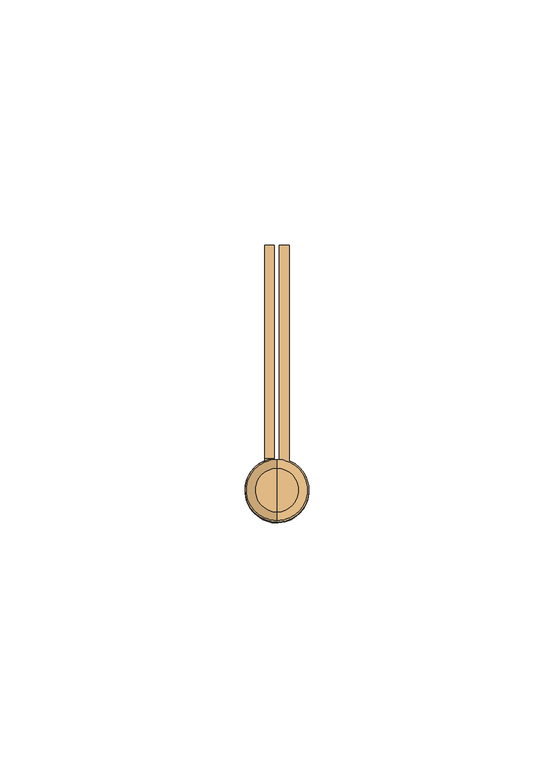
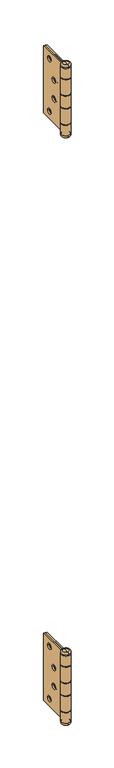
"""IFC4 building model written with IfcOpenShell, lengths in millimetres: door geometry, Puerta contraplacada : Puerta contraplacada 0.65x2.10 m."""

from ifc_helpers import new_model, si_unit, point, frame, origin, place, context, project, spatial, polyline, circle_curve, ellipse_curve, trimmed, source, transform, mapped, element, save
from ifc_brep_helpers import plane_surface, cylinder_surface, revolved_surface, advanced_brep


def door_0d445abd(model_context):
    return source(origin(), model_context, "Body", "AdvancedBrep", [
        advanced_brep(
        [(-289.0, -7.5, 1950.0), (-289.0, -51.5, 1950.0), (-289.0, -51.5, 1934.5), (-289.0, -51.0, 1934.5), (-289.0, -51.0, 1909.0), (-289.0, -51.5, 1909.0), (-289.0, -51.5, 1891.0), (-289.0, -51.0, 1891.0), (-289.0, -51.0, 1865.5), (-289.0, -51.5, 1865.5), (-289.0, -51.5, 1850.0), (-289.0, -7.5, 1850.0), (-289.0, -17.5, 1861.0), (-289.0, -25.5, 1861.0), (-289.0, -28.5, 1886.0), (-289.0, -36.5, 1886.0), (-289.0, -17.5, 1939.0), (-289.0, -25.5, 1939.0), (-289.0, -28.5, 1914.0), (-289.0, -36.5, 1914.0), (-291.0, -7.5, 1850.0), (-291.0, -53.027864, 1850.0), (-291.0, -53.027864, 1865.5), (-291.0, -51.0, 1865.5), (-291.0, -51.0, 1891.0), (-291.0, -53.027864, 1891.0), (-291.0, -53.027864, 1909.0), (-291.0, -51.0, 1909.0), (-291.0, -51.0, 1934.5), (-291.0, -53.027864, 1934.5), (-291.0, -53.027864, 1950.0), (-291.0, -7.5, 1950.0), (-291.0, -25.5, 1861.0), (-291.0, -17.5, 1861.0), (-291.0, -36.5, 1886.0), (-291.0, -28.5, 1886.0), (-291.0, -25.5, 1939.0), (-291.0, -17.5, 1939.0), (-291.0, -36.5, 1914.0), (-291.0, -28.5, 1914.0), (-292.0, -51.0192593, 1850.0), (-292.0, -53.027864, 1850.0), (-292.0, -53.027864, 1950.0), (-292.0, -51.0192593, 1950.0), (-292.0, -51.0192593, 1934.5), (-292.0, -53.027864, 1934.5), (-292.0, -53.027864, 1909.0), (-292.0, -51.0192593, 1909.0), (-292.0, -51.0192593, 1891.0), (-292.0, -53.027864, 1891.0), (-292.0, -53.027864, 1865.5), (-292.0, -51.0192593, 1865.5)],
        [
            (0, 1),
            (1, 2),
            (2, 3),
            (3, 4),
            (4, 5),
            (5, 6),
            (6, 7),
            (7, 8),
            (8, 9),
            (9, 10),
            (10, 11),
            (11, 0),
            (12, 13, circle_curve(frame((-289.0, -21.5, 1861.0), z_axis=(-1.0, 0.0, 0.0), x_axis=(0.0, 1.0, 0.0)), 4.0)),
            (13, 12, circle_curve(frame((-289.0, -21.5, 1861.0), z_axis=(-1.0, 0.0, 0.0), x_axis=(0.0, 1.0, 0.0)), 4.0)),
            (14, 15, circle_curve(frame((-289.0, -32.5, 1886.0), z_axis=(-1.0, 0.0, 0.0), x_axis=(0.0, 1.0, 0.0)), 4.0)),
            (15, 14, circle_curve(frame((-289.0, -32.5, 1886.0), z_axis=(-1.0, 0.0, 0.0), x_axis=(0.0, 1.0, 0.0)), 4.0)),
            (16, 17, circle_curve(frame((-289.0, -21.5, 1939.0), z_axis=(-1.0, 0.0, 0.0), x_axis=(0.0, 1.0, 0.0)), 4.0)),
            (17, 16, circle_curve(frame((-289.0, -21.5, 1939.0), z_axis=(-1.0, 0.0, 0.0), x_axis=(0.0, 1.0, 0.0)), 4.0)),
            (18, 19, circle_curve(frame((-289.0, -32.5, 1914.0), z_axis=(-1.0, 0.0, 0.0), x_axis=(0.0, 1.0, 0.0)), 4.0)),
            (19, 18, circle_curve(frame((-289.0, -32.5, 1914.0), z_axis=(-1.0, 0.0, 0.0), x_axis=(0.0, 1.0, 0.0)), 4.0)),
            (20, 21),
            (21, 22),
            (22, 23),
            (23, 24),
            (24, 25),
            (25, 26),
            (26, 27),
            (27, 28),
            (28, 29),
            (29, 30),
            (30, 31),
            (31, 20),
            (32, 33, circle_curve(frame((-291.0, -21.5, 1861.0), z_axis=(1.0, 0.0, 0.0), x_axis=(0.0, 1.0, 0.0)), 4.0)),
            (33, 32, circle_curve(frame((-291.0, -21.5, 1861.0), z_axis=(1.0, 0.0, 0.0), x_axis=(0.0, 1.0, 0.0)), 4.0)),
            (34, 35, circle_curve(frame((-291.0, -32.5, 1886.0), z_axis=(1.0, 0.0, 0.0), x_axis=(0.0, 1.0, 0.0)), 4.0)),
            (35, 34, circle_curve(frame((-291.0, -32.5, 1886.0), z_axis=(1.0, 0.0, 0.0), x_axis=(0.0, 1.0, 0.0)), 4.0)),
            (36, 37, circle_curve(frame((-291.0, -21.5, 1939.0), z_axis=(1.0, 0.0, 0.0), x_axis=(0.0, 1.0, 0.0)), 4.0)),
            (37, 36, circle_curve(frame((-291.0, -21.5, 1939.0), z_axis=(1.0, 0.0, 0.0), x_axis=(0.0, 1.0, 0.0)), 4.0)),
            (38, 39, circle_curve(frame((-291.0, -32.5, 1914.0), z_axis=(1.0, 0.0, 0.0), x_axis=(0.0, 1.0, 0.0)), 4.0)),
            (39, 38, circle_curve(frame((-291.0, -32.5, 1914.0), z_axis=(1.0, 0.0, 0.0), x_axis=(0.0, 1.0, 0.0)), 4.0)),
            (10, 40, circle_curve(frame((-291.5, -57.5, 1850.0), z_axis=(0.0, 0.0, -1.0), x_axis=(0.0, -1.0, 0.0)), 6.5)),
            (40, 41),
            (41, 21, circle_curve(frame((-291.5, -57.5, 1850.0), z_axis=(0.0, 0.0, 1.0), x_axis=(0.0, -1.0, 0.0)), 4.5)),
            (20, 11),
            (31, 0),
            (30, 42, circle_curve(frame((-291.5, -57.5, 1950.0), z_axis=(0.0, 0.0, -1.0), x_axis=(0.0, -1.0, 0.0)), 4.5)),
            (42, 43),
            (43, 1, circle_curve(frame((-291.5, -57.5, 1950.0), z_axis=(0.0, 0.0, 1.0), x_axis=(0.0, -1.0, 0.0)), 6.5)),
            (27, 4),
            (3, 28),
            (23, 8),
            (7, 24),
            (2, 44, circle_curve(frame((-291.5, -57.5, 1934.5), z_axis=(0.0, 0.0, -1.0), x_axis=(0.0, -1.0, 0.0)), 6.5)),
            (44, 45),
            (45, 29, circle_curve(frame((-291.5, -57.5, 1934.5), z_axis=(0.0, 0.0, 1.0), x_axis=(0.0, -1.0, 0.0)), 4.5)),
            (43, 44),
            (42, 45),
            (26, 46, circle_curve(frame((-291.5, -57.5, 1909.0), z_axis=(0.0, 0.0, -1.0), x_axis=(0.0, -1.0, 0.0)), 4.5)),
            (46, 47),
            (47, 5, circle_curve(frame((-291.5, -57.5, 1909.0), z_axis=(0.0, 0.0, 1.0), x_axis=(0.0, -1.0, 0.0)), 6.5)),
            (6, 48, circle_curve(frame((-291.5, -57.5, 1891.0), z_axis=(0.0, 0.0, -1.0), x_axis=(0.0, -1.0, 0.0)), 6.5)),
            (48, 49),
            (49, 25, circle_curve(frame((-291.5, -57.5, 1891.0), z_axis=(0.0, 0.0, 1.0), x_axis=(0.0, -1.0, 0.0)), 4.5)),
            (47, 48),
            (46, 49),
            (22, 50, circle_curve(frame((-291.5, -57.5, 1865.5), z_axis=(0.0, 0.0, -1.0), x_axis=(0.0, -1.0, 0.0)), 4.5)),
            (50, 51),
            (51, 9, circle_curve(frame((-291.5, -57.5, 1865.5), z_axis=(0.0, 0.0, 1.0), x_axis=(0.0, -1.0, 0.0)), 6.5)),
            (51, 40),
            (50, 41),
            (33, 12),
            (13, 32),
            (35, 14),
            (15, 34),
            (37, 16),
            (17, 36),
            (39, 18),
            (19, 38),
        ],
        [
            plane_surface(frame((-289.0, -51.0, 1850.0), z_axis=(1.0, 0.0, 0.0), x_axis=(0.0, 0.0, 1.0))),
            plane_surface(frame((-291.0, -51.0, 1850.0), z_axis=(-1.0, 0.0, 0.0), x_axis=(0.0, 0.0, -1.0))),
            plane_surface(frame((-289.0, -7.5, 1850.0), z_axis=(0.0, 0.0, -1.0), x_axis=(-1.0, 0.0, 0.0))),
            plane_surface(frame((-289.0, -7.5, 1950.0), z_axis=(0.0, 1.0, 0.0), x_axis=(-1.0, 0.0, 0.0))),
            plane_surface(frame((-289.0, -51.0, 1950.0), z_axis=(0.0, 0.0, 1.0), x_axis=(-1.0, 0.0, 0.0))),
            plane_surface(frame((-289.0, -51.0, 1850.0), z_axis=(0.0, -1.0, 0.0), x_axis=(-1.0, 0.0, 0.0))),
            plane_surface(frame((-291.0, -51.0, 1934.5), z_axis=(0.0, 0.0, -1.0), x_axis=(0.0, -1.0, 0.0))),
            cylinder_surface(frame((-291.5, -57.5, 1934.5), z_axis=(0.0, 0.0, 1.0), x_axis=(0.0, -1.0, 0.0)), 6.5),
            plane_surface(frame((-292.0, -51.0192593, 1950.0), z_axis=(1.0, 0.0, 0.0), x_axis=(0.0, 0.0, -1.0))),
            revolved_surface(polyline([(-291.5, -62.0, 1934.5), (-291.5, -62.0, 1950.0)]), (-291.5, -57.5, 1934.5), (0.0, 0.0, -1.0)),
            plane_surface(frame((-291.0, -51.0, 1909.0), z_axis=(0.0, 0.0, 1.0), x_axis=(0.0, 1.0, 0.0))),
            plane_surface(frame((-291.0, -51.0, 1891.0), z_axis=(0.0, 0.0, -1.0), x_axis=(0.0, -1.0, 0.0))),
            cylinder_surface(frame((-291.5, -57.5, 1891.0), z_axis=(0.0, 0.0, 1.0), x_axis=(0.0, -1.0, 0.0)), 6.5),
            plane_surface(frame((-292.0, -51.0192593, 1909.0), z_axis=(1.0, 0.0, 0.0), x_axis=(0.0, 0.0, -1.0))),
            revolved_surface(polyline([(-291.5, -62.0, 1891.0), (-291.5, -62.0, 1909.0)]), (-291.5, -57.5, 1891.0), (0.0, 0.0, -1.0)),
            plane_surface(frame((-291.0, -51.0, 1865.5), z_axis=(0.0, 0.0, 1.0), x_axis=(0.0, 1.0, 0.0))),
            cylinder_surface(frame((-291.5, -57.5, 1850.0), z_axis=(0.0, 0.0, 1.0), x_axis=(0.0, -1.0, 0.0)), 6.5),
            plane_surface(frame((-292.0, -51.0192593, 1865.5), z_axis=(1.0, 0.0, 0.0), x_axis=(0.0, 0.0, -1.0))),
            revolved_surface(polyline([(-291.5, -62.0, 1850.0), (-291.5, -62.0, 1865.5)]), (-291.5, -57.5, 1850.0), (0.0, 0.0, -1.0)),
            revolved_surface(polyline([(-289.0, -17.5, 1861.0), (-291.0, -17.5, 1861.0)]), (-294.0, -21.5, 1861.0), (1.0, 0.0, 0.0)),
            revolved_surface(polyline([(-289.0, -28.5, 1886.0), (-291.0, -28.5, 1886.0)]), (-292.0, -32.5, 1886.0), (1.0, 0.0, 0.0)),
            revolved_surface(polyline([(-289.0, -17.5, 1939.0), (-291.0, -17.5, 1939.0)]), (-292.0, -21.5, 1939.0), (1.0, 0.0, 0.0)),
            revolved_surface(polyline([(-289.0, -28.5, 1914.0), (-291.0, -28.5, 1914.0)]), (-292.0, -32.5, 1914.0), (1.0, 0.0, 0.0)),
        ],
        [
            (0, [[1, 2, 3, 4, 5, 6, 7, 8, 9, 10, 11, 12], [13, 14], [15, 16], [17, 18], [19, 20]]),
            (1, [[21, 22, 23, 24, 25, 26, 27, 28, 29, 30, 31, 32], [33, 34], [35, 36], [37, 38], [39, 40]]),
            (2, [[-11, 41, 42, 43, -21, 44]]),
            (3, [[-44, -32, 45, -12]]),
            (4, [[-31, 46, 47, 48, -1, -45]]),
            (5, [[-28, 49, -4, 50]]),
            (5, [[-24, 51, -8, 52]]),
            (6, [[-29, -50, -3, 53, 54, 55]]),
            (7, [[56, -53, -2, -48]]),
            (8, [[57, -54, -56, -47]]),
            (9, [[-30, -55, -57, -46]]),
            (10, [[-5, -49, -27, 58, 59, 60]]),
            (11, [[-25, -52, -7, 61, 62, 63]]),
            (12, [[64, -61, -6, -60]]),
            (13, [[65, -62, -64, -59]]),
            (14, [[-26, -63, -65, -58]]),
            (15, [[-9, -51, -23, 66, 67, 68]]),
            (16, [[69, -41, -10, -68]]),
            (17, [[70, -42, -69, -67]]),
            (18, [[-22, -43, -70, -66]]),
            (19, [[-34, 71, -14, 72]]),
            (19, [[-13, -71, -33, -72]]),
            (20, [[-36, 73, -16, 74]]),
            (20, [[-15, -73, -35, -74]]),
            (21, [[-38, 75, -18, 76]]),
            (21, [[-17, -75, -37, -76]]),
            (22, [[-40, 77, -20, 78]]),
            (22, [[-19, -77, -39, -78]]),
        ],
    ),
        advanced_brep(
        [(-291.5, -53.0, 1954.0), (-291.5, -53.0, 1950.5), (-291.5, -61.9442719, 1950.5), (-291.5, -61.9442719, 1954.0), (-291.5, -57.472136, 1954.0), (-291.5, -53.0, 1846.0), (-291.5, -57.472136, 1846.0), (-291.5, -61.9442719, 1846.0), (-291.5, -53.0, 1849.5), (-291.5, -61.9442719, 1849.5)],
        [
            (0, 1, circle_curve(frame((-291.5, -53.0, 1952.25), z_axis=(-1.0, 0.0, 0.0), x_axis=(0.0, -1.0, 0.0)), 1.75)),
            (1, 2, circle_curve(frame((-291.5, -57.472136, 1950.5), z_axis=(0.0, 0.0, 1.0), x_axis=(0.0, -1.0, 0.0)), 4.472136)),
            (2, 3, circle_curve(frame((-291.5, -61.9442719, 1952.25), z_axis=(-1.0, 0.0, 0.0), x_axis=(0.0, 1.0, 0.0)), 1.75)),
            (3, 0, circle_curve(frame((-291.5, -57.472136, 1954.0), z_axis=(0.0, 0.0, -1.0), x_axis=(0.0, -1.0, 0.0)), 4.472136)),
            (2, 1, circle_curve(frame((-291.5, -57.472136, 1950.5), z_axis=(0.0, 0.0, 1.0), x_axis=(0.0, -1.0, 0.0)), 4.472136)),
            (0, 3, circle_curve(frame((-291.5, -57.472136, 1954.0), z_axis=(0.0, 0.0, -1.0), x_axis=(0.0, -1.0, 0.0)), 4.472136)),
            (4, 0),
            (3, 4),
            (5, 6),
            (6, 7),
            (7, 5, circle_curve(frame((-291.5, -57.472136, 1846.0), z_axis=(0.0, 0.0, -1.0), x_axis=(0.0, -1.0, 0.0)), 4.472136)),
            (5, 7, circle_curve(frame((-291.5, -57.472136, 1846.0), z_axis=(0.0, 0.0, -1.0), x_axis=(0.0, -1.0, 0.0)), 4.472136)),
            (8, 5, circle_curve(frame((-291.5, -53.0, 1847.75), z_axis=(-1.0, 0.0, 0.0), x_axis=(0.0, -1.0, 0.0)), 1.75)),
            (7, 9, circle_curve(frame((-291.5, -61.9442719, 1847.75), z_axis=(-1.0, 0.0, 0.0), x_axis=(0.0, 1.0, 0.0)), 1.75)),
            (9, 8, circle_curve(frame((-291.5, -57.472136, 1849.5), z_axis=(0.0, 0.0, -1.0), x_axis=(0.0, -1.0, 0.0)), 4.472136)),
            (8, 9, circle_curve(frame((-291.5, -57.472136, 1849.5), z_axis=(0.0, 0.0, -1.0), x_axis=(0.0, -1.0, 0.0)), 4.472136)),
            (1, 8),
            (9, 2),
        ],
        [
            revolved_surface(trimmed(ellipse_curve(frame((-291.5, -61.9442719, 1952.25), z_axis=(-1.0, 0.0, 0.0), x_axis=(0.0, 1.0, 0.0)), 1.75, 1.75), [point((-291.5, -61.9442719, 1950.5))], [point((-291.5, -61.9442719, 1954.0))], True, "CARTESIAN"), (-291.5, -57.472136, 1954.0), (0.0, 0.0, 1.0)),
            plane_surface(frame((-291.5, -57.472136, 1954.0), z_axis=(0.0, 0.0, 1.0), x_axis=(0.0, -1.0, 0.0))),
            plane_surface(frame((-291.5, -57.472136, 1846.0), z_axis=(0.0, 0.0, -1.0), x_axis=(0.0, -1.0, 0.0))),
            revolved_surface(trimmed(ellipse_curve(frame((-291.5, -61.9442719, 1847.75), z_axis=(-1.0, 0.0, 0.0), x_axis=(0.0, 1.0, 0.0)), 1.75, 1.75), [point((-291.5, -61.9442719, 1846.0))], [point((-291.5, -61.9442719, 1849.5))], True, "CARTESIAN"), (-291.5, -57.472136, 1954.0), (0.0, 0.0, 1.0)),
            cylinder_surface(frame((-291.5, -57.472136, 1954.0), z_axis=(0.0, 0.0, 1.0), x_axis=(0.0, -1.0, 0.0)), 4.472136),
        ],
        [
            (0, [[1, 2, 3, 4]]),
            (0, [[-3, 5, -1, 6]]),
            (1, [[7, -4, 8]]),
            (1, [[-8, -6, -7]]),
            (2, [[9, 10, 11]]),
            (2, [[-10, -9, 12]]),
            (3, [[13, -11, 14, 15]]),
            (3, [[-14, -12, -13, 16]]),
            (4, [[17, -15, 18, -2]]),
            (4, [[-18, -16, -17, -5]]),
        ],
    ),
        advanced_brep(
        [(-292.0, -51.0, 1950.0), (-292.0, -51.0, 1933.5), (-292.0, -53.027864, 1933.5), (-292.0, -53.027864, 1910.0), (-292.0, -51.0, 1910.0), (-292.0, -51.0, 1890.0), (-292.0, -53.027864, 1890.0), (-292.0, -53.027864, 1866.5), (-292.0, -51.0, 1866.5), (-292.0, -51.0, 1850.0), (-292.0, -7.5, 1850.0), (-292.0, -7.5, 1950.0), (-292.0, -17.5, 1861.0), (-292.0, -25.5, 1861.0), (-292.0, -28.5, 1886.0), (-292.0, -36.5, 1886.0), (-292.0, -17.5, 1939.0), (-292.0, -25.5, 1939.0), (-292.0, -28.5, 1914.0), (-292.0, -36.5, 1914.0), (-294.0, -51.0, 1850.0), (-294.0, -51.0, 1866.5), (-294.0, -51.5, 1866.5), (-294.0, -51.5, 1890.0), (-294.0, -51.0, 1890.0), (-294.0, -51.0, 1910.0), (-294.0, -51.5, 1910.0), (-294.0, -51.5, 1933.5), (-294.0, -51.0, 1933.5), (-294.0, -51.0, 1950.0), (-294.0, -7.5, 1950.0), (-294.0, -7.5, 1850.0), (-294.0, -25.5, 1861.0), (-294.0, -17.5, 1861.0), (-294.0, -36.5, 1886.0), (-294.0, -28.5, 1886.0), (-294.0, -25.5, 1939.0), (-294.0, -17.5, 1939.0), (-294.0, -36.5, 1914.0), (-294.0, -28.5, 1914.0), (-291.0, -51.0192593, 1933.5), (-291.0, -53.027864, 1933.5), (-291.0, -53.027864, 1910.0), (-291.0, -51.0192593, 1910.0), (-291.0, -51.0192593, 1890.0), (-291.0, -53.027864, 1890.0), (-291.0, -53.027864, 1866.5), (-291.0, -51.0192593, 1866.5)],
        [
            (0, 1),
            (1, 2),
            (2, 3),
            (3, 4),
            (4, 5),
            (5, 6),
            (6, 7),
            (7, 8),
            (8, 9),
            (9, 10),
            (10, 11),
            (11, 0),
            (12, 13, circle_curve(frame((-292.0, -21.5, 1861.0), z_axis=(-1.0, 0.0, 0.0), x_axis=(0.0, 1.0, 0.0)), 4.0)),
            (13, 12, circle_curve(frame((-292.0, -21.5, 1861.0), z_axis=(-1.0, 0.0, 0.0), x_axis=(0.0, 1.0, 0.0)), 4.0)),
            (14, 15, circle_curve(frame((-292.0, -32.5, 1886.0), z_axis=(-1.0, 0.0, 0.0), x_axis=(0.0, 1.0, 0.0)), 4.0)),
            (15, 14, circle_curve(frame((-292.0, -32.5, 1886.0), z_axis=(-1.0, 0.0, 0.0), x_axis=(0.0, 1.0, 0.0)), 4.0)),
            (16, 17, circle_curve(frame((-292.0, -21.5, 1939.0), z_axis=(-1.0, 0.0, 0.0), x_axis=(0.0, 1.0, 0.0)), 4.0)),
            (17, 16, circle_curve(frame((-292.0, -21.5, 1939.0), z_axis=(-1.0, 0.0, 0.0), x_axis=(0.0, 1.0, 0.0)), 4.0)),
            (18, 19, circle_curve(frame((-292.0, -32.5, 1914.0), z_axis=(-1.0, 0.0, 0.0), x_axis=(0.0, 1.0, 0.0)), 4.0)),
            (19, 18, circle_curve(frame((-292.0, -32.5, 1914.0), z_axis=(-1.0, 0.0, 0.0), x_axis=(0.0, 1.0, 0.0)), 4.0)),
            (20, 21),
            (21, 22),
            (22, 23),
            (23, 24),
            (24, 25),
            (25, 26),
            (26, 27),
            (27, 28),
            (28, 29),
            (29, 30),
            (30, 31),
            (31, 20),
            (32, 33, circle_curve(frame((-294.0, -21.5, 1861.0), z_axis=(1.0, 0.0, 0.0), x_axis=(0.0, 1.0, 0.0)), 4.0)),
            (33, 32, circle_curve(frame((-294.0, -21.5, 1861.0), z_axis=(1.0, 0.0, 0.0), x_axis=(0.0, 1.0, 0.0)), 4.0)),
            (34, 35, circle_curve(frame((-294.0, -32.5, 1886.0), z_axis=(1.0, 0.0, 0.0), x_axis=(0.0, 1.0, 0.0)), 4.0)),
            (35, 34, circle_curve(frame((-294.0, -32.5, 1886.0), z_axis=(1.0, 0.0, 0.0), x_axis=(0.0, 1.0, 0.0)), 4.0)),
            (36, 37, circle_curve(frame((-294.0, -21.5, 1939.0), z_axis=(1.0, 0.0, 0.0), x_axis=(0.0, 1.0, 0.0)), 4.0)),
            (37, 36, circle_curve(frame((-294.0, -21.5, 1939.0), z_axis=(1.0, 0.0, 0.0), x_axis=(0.0, 1.0, 0.0)), 4.0)),
            (38, 39, circle_curve(frame((-294.0, -32.5, 1914.0), z_axis=(1.0, 0.0, 0.0), x_axis=(0.0, 1.0, 0.0)), 4.0)),
            (39, 38, circle_curve(frame((-294.0, -32.5, 1914.0), z_axis=(1.0, 0.0, 0.0), x_axis=(0.0, 1.0, 0.0)), 4.0)),
            (9, 20),
            (31, 10),
            (30, 11),
            (29, 0),
            (8, 21),
            (28, 1),
            (24, 5),
            (4, 25),
            (27, 40, circle_curve(frame((-291.5, -57.5, 1933.5), z_axis=(0.0, 0.0, 1.0), x_axis=(0.0, -1.0, 0.0)), 6.5)),
            (40, 41),
            (41, 2, circle_curve(frame((-291.5, -57.5, 1933.5), z_axis=(0.0, 0.0, -1.0), x_axis=(0.0, -1.0, 0.0)), 4.5)),
            (3, 42, circle_curve(frame((-291.5, -57.5, 1910.0), z_axis=(0.0, 0.0, 1.0), x_axis=(0.0, -1.0, 0.0)), 4.5)),
            (42, 43),
            (43, 26, circle_curve(frame((-291.5, -57.5, 1910.0), z_axis=(0.0, 0.0, -1.0), x_axis=(0.0, -1.0, 0.0)), 6.5)),
            (43, 40),
            (42, 41),
            (23, 44, circle_curve(frame((-291.5, -57.5, 1890.0), z_axis=(0.0, 0.0, 1.0), x_axis=(0.0, -1.0, 0.0)), 6.5)),
            (44, 45),
            (45, 6, circle_curve(frame((-291.5, -57.5, 1890.0), z_axis=(0.0, 0.0, -1.0), x_axis=(0.0, -1.0, 0.0)), 4.5)),
            (7, 46, circle_curve(frame((-291.5, -57.5, 1866.5), z_axis=(0.0, 0.0, 1.0), x_axis=(0.0, -1.0, 0.0)), 4.5)),
            (46, 47),
            (47, 22, circle_curve(frame((-291.5, -57.5, 1866.5), z_axis=(0.0, 0.0, -1.0), x_axis=(0.0, -1.0, 0.0)), 6.5)),
            (47, 44),
            (46, 45),
            (33, 12),
            (13, 32),
            (35, 14),
            (15, 34),
            (37, 16),
            (17, 36),
            (39, 18),
            (19, 38),
        ],
        [
            plane_surface(frame((-292.0, -51.0, 1850.0), z_axis=(1.0, 0.0, 0.0), x_axis=(0.0, 0.0, 1.0))),
            plane_surface(frame((-294.0, -51.0, 1850.0), z_axis=(-1.0, 0.0, 0.0), x_axis=(0.0, 0.0, -1.0))),
            plane_surface(frame((-292.0, -7.5, 1850.0), z_axis=(0.0, 0.0, -1.0), x_axis=(-1.0, 0.0, 0.0))),
            plane_surface(frame((-292.0, -7.5, 1950.0), z_axis=(0.0, 1.0, 0.0), x_axis=(-1.0, 0.0, 0.0))),
            plane_surface(frame((-292.0, -51.0, 1950.0), z_axis=(0.0, 0.0, 1.0), x_axis=(-1.0, 0.0, 0.0))),
            plane_surface(frame((-292.0, -51.0, 1850.0), z_axis=(0.0, -1.0, 0.0), x_axis=(-1.0, 0.0, 0.0))),
            plane_surface(frame((-291.5, -62.0, 1933.5), z_axis=(0.0, 0.0, 1.0), x_axis=(1.0, 0.0, 0.0))),
            plane_surface(frame((-291.5, -62.0, 1910.0), z_axis=(0.0, 0.0, -1.0), x_axis=(-1.0, 0.0, 0.0))),
            cylinder_surface(frame((-291.5, -57.5, 1910.0), z_axis=(0.0, 0.0, 1.0), x_axis=(0.0, -1.0, 0.0)), 6.5),
            plane_surface(frame((-291.0, -53.027864, 1933.5), z_axis=(-1.0, 0.0, 0.0), x_axis=(0.0, 0.0, -1.0))),
            revolved_surface(polyline([(-291.5, -62.0, 1910.0), (-291.5, -62.0, 1933.5)]), (-291.5, -57.5, 1910.0), (0.0, 0.0, -1.0)),
            plane_surface(frame((-291.5, -62.0, 1890.0), z_axis=(0.0, 0.0, 1.0), x_axis=(1.0, 0.0, 0.0))),
            plane_surface(frame((-291.5, -62.0, 1866.5), z_axis=(0.0, 0.0, -1.0), x_axis=(-1.0, 0.0, 0.0))),
            cylinder_surface(frame((-291.5, -57.5, 1866.5), z_axis=(0.0, 0.0, 1.0), x_axis=(0.0, -1.0, 0.0)), 6.5),
            plane_surface(frame((-291.0, -53.027864, 1890.0), z_axis=(-1.0, 0.0, 0.0), x_axis=(0.0, 0.0, -1.0))),
            revolved_surface(polyline([(-291.5, -62.0, 1866.5), (-291.5, -62.0, 1890.0)]), (-291.5, -57.5, 1866.5), (0.0, 0.0, -1.0)),
            revolved_surface(polyline([(-292.0, -17.5, 1861.0), (-294.0, -17.5, 1861.0)]), (-294.0, -21.5, 1861.0), (1.0, 0.0, 0.0)),
            revolved_surface(polyline([(-292.0, -28.5, 1886.0), (-294.0, -28.5, 1886.0)]), (-292.0, -32.5, 1886.0), (1.0, 0.0, 0.0)),
            revolved_surface(polyline([(-292.0, -17.5, 1939.0), (-294.0, -17.5, 1939.0)]), (-292.0, -21.5, 1939.0), (1.0, 0.0, 0.0)),
            revolved_surface(polyline([(-292.0, -28.5, 1914.0), (-294.0, -28.5, 1914.0)]), (-292.0, -32.5, 1914.0), (1.0, 0.0, 0.0)),
        ],
        [
            (0, [[1, 2, 3, 4, 5, 6, 7, 8, 9, 10, 11, 12], [13, 14], [15, 16], [17, 18], [19, 20]]),
            (1, [[21, 22, 23, 24, 25, 26, 27, 28, 29, 30, 31, 32], [33, 34], [35, 36], [37, 38], [39, 40]]),
            (2, [[41, -32, 42, -10]]),
            (3, [[-42, -31, 43, -11]]),
            (4, [[-43, -30, 44, -12]]),
            (5, [[-9, 45, -21, -41]]),
            (5, [[-29, 46, -1, -44]]),
            (5, [[-25, 47, -5, 48]]),
            (6, [[-2, -46, -28, 49, 50, 51]]),
            (7, [[-26, -48, -4, 52, 53, 54]]),
            (8, [[-27, -54, 55, -49]]),
            (9, [[-55, -53, 56, -50]]),
            (10, [[-56, -52, -3, -51]]),
            (11, [[-6, -47, -24, 57, 58, 59]]),
            (12, [[-22, -45, -8, 60, 61, 62]]),
            (13, [[-23, -62, 63, -57]]),
            (14, [[-63, -61, 64, -58]]),
            (15, [[-64, -60, -7, -59]]),
            (16, [[-34, 65, -14, 66]]),
            (16, [[-13, -65, -33, -66]]),
            (17, [[-36, 67, -16, 68]]),
            (17, [[-15, -67, -35, -68]]),
            (18, [[-38, 69, -18, 70]]),
            (18, [[-17, -69, -37, -70]]),
            (19, [[-40, 71, -20, 72]]),
            (19, [[-19, -71, -39, -72]]),
        ],
    ),
        advanced_brep(
        [(-289.0, -7.5, 1075.0174632), (-289.0, -51.5, 1075.0174632), (-289.0, -51.5, 1059.5174632), (-289.0, -51.0, 1059.5174632), (-289.0, -51.0, 1034.0174632), (-289.0, -51.5, 1034.0174632), (-289.0, -51.5, 1016.0174632), (-289.0, -51.0, 1016.0174632), (-289.0, -51.0, 990.5174632), (-289.0, -51.5, 990.5174632), (-289.0, -51.5, 975.0174632), (-289.0, -7.5, 975.0174632), (-289.0, -17.5, 986.0174632), (-289.0, -25.5, 986.0174632), (-289.0, -28.5, 1011.0174632), (-289.0, -36.5, 1011.0174632), (-289.0, -17.5, 1064.0174632), (-289.0, -25.5, 1064.0174632), (-289.0, -28.5, 1039.0174632), (-289.0, -36.5, 1039.0174632), (-291.0, -7.5, 975.0174632), (-291.0, -53.027864, 975.0174632), (-291.0, -53.027864, 990.5174632), (-291.0, -51.0, 990.5174632), (-291.0, -51.0, 1016.0174632), (-291.0, -53.027864, 1016.0174632), (-291.0, -53.027864, 1034.0174632), (-291.0, -51.0, 1034.0174632), (-291.0, -51.0, 1059.5174632), (-291.0, -53.027864, 1059.5174632), (-291.0, -53.027864, 1075.0174632), (-291.0, -7.5, 1075.0174632), (-291.0, -25.5, 986.0174632), (-291.0, -17.5, 986.0174632), (-291.0, -36.5, 1011.0174632), (-291.0, -28.5, 1011.0174632), (-291.0, -25.5, 1064.0174632), (-291.0, -17.5, 1064.0174632), (-291.0, -36.5, 1039.0174632), (-291.0, -28.5, 1039.0174632), (-292.0, -51.0192593, 975.0174632), (-292.0, -53.027864, 975.0174632), (-292.0, -53.027864, 1075.0174632), (-292.0, -51.0192593, 1075.0174632), (-292.0, -51.0192593, 1059.5174632), (-292.0, -53.027864, 1059.5174632), (-292.0, -53.027864, 1034.0174632), (-292.0, -51.0192593, 1034.0174632), (-292.0, -51.0192593, 1016.0174632), (-292.0, -53.027864, 1016.0174632), (-292.0, -53.027864, 990.5174632), (-292.0, -51.0192593, 990.5174632)],
        [
            (0, 1),
            (1, 2),
            (2, 3),
            (3, 4),
            (4, 5),
            (5, 6),
            (6, 7),
            (7, 8),
            (8, 9),
            (9, 10),
            (10, 11),
            (11, 0),
            (12, 13, circle_curve(frame((-289.0, -21.5, 986.0174632), z_axis=(-1.0, 0.0, 0.0), x_axis=(0.0, 1.0, 0.0)), 4.0)),
            (13, 12, circle_curve(frame((-289.0, -21.5, 986.0174632), z_axis=(-1.0, 0.0, 0.0), x_axis=(0.0, 1.0, 0.0)), 4.0)),
            (14, 15, circle_curve(frame((-289.0, -32.5, 1011.0174632), z_axis=(-1.0, 0.0, 0.0), x_axis=(0.0, 1.0, 0.0)), 4.0)),
            (15, 14, circle_curve(frame((-289.0, -32.5, 1011.0174632), z_axis=(-1.0, 0.0, 0.0), x_axis=(0.0, 1.0, 0.0)), 4.0)),
            (16, 17, circle_curve(frame((-289.0, -21.5, 1064.0174632), z_axis=(-1.0, 0.0, 0.0), x_axis=(0.0, 1.0, 0.0)), 4.0)),
            (17, 16, circle_curve(frame((-289.0, -21.5, 1064.0174632), z_axis=(-1.0, 0.0, 0.0), x_axis=(0.0, 1.0, 0.0)), 4.0)),
            (18, 19, circle_curve(frame((-289.0, -32.5, 1039.0174632), z_axis=(-1.0, 0.0, 0.0), x_axis=(0.0, 1.0, 0.0)), 4.0)),
            (19, 18, circle_curve(frame((-289.0, -32.5, 1039.0174632), z_axis=(-1.0, 0.0, 0.0), x_axis=(0.0, 1.0, 0.0)), 4.0)),
            (20, 21),
            (21, 22),
            (22, 23),
            (23, 24),
            (24, 25),
            (25, 26),
            (26, 27),
            (27, 28),
            (28, 29),
            (29, 30),
            (30, 31),
            (31, 20),
            (32, 33, circle_curve(frame((-291.0, -21.5, 986.0174632), z_axis=(1.0, 0.0, 0.0), x_axis=(0.0, 1.0, 0.0)), 4.0)),
            (33, 32, circle_curve(frame((-291.0, -21.5, 986.0174632), z_axis=(1.0, 0.0, 0.0), x_axis=(0.0, 1.0, 0.0)), 4.0)),
            (34, 35, circle_curve(frame((-291.0, -32.5, 1011.0174632), z_axis=(1.0, 0.0, 0.0), x_axis=(0.0, 1.0, 0.0)), 4.0)),
            (35, 34, circle_curve(frame((-291.0, -32.5, 1011.0174632), z_axis=(1.0, 0.0, 0.0), x_axis=(0.0, 1.0, 0.0)), 4.0)),
            (36, 37, circle_curve(frame((-291.0, -21.5, 1064.0174632), z_axis=(1.0, 0.0, 0.0), x_axis=(0.0, 1.0, 0.0)), 4.0)),
            (37, 36, circle_curve(frame((-291.0, -21.5, 1064.0174632), z_axis=(1.0, 0.0, 0.0), x_axis=(0.0, 1.0, 0.0)), 4.0)),
            (38, 39, circle_curve(frame((-291.0, -32.5, 1039.0174632), z_axis=(1.0, 0.0, 0.0), x_axis=(0.0, 1.0, 0.0)), 4.0)),
            (39, 38, circle_curve(frame((-291.0, -32.5, 1039.0174632), z_axis=(1.0, 0.0, 0.0), x_axis=(0.0, 1.0, 0.0)), 4.0)),
            (10, 40, circle_curve(frame((-291.5, -57.5, 975.0174632), z_axis=(0.0, 0.0, -1.0), x_axis=(0.0, -1.0, 0.0)), 6.5)),
            (40, 41),
            (41, 21, circle_curve(frame((-291.5, -57.5, 975.0174632), z_axis=(0.0, 0.0, 1.0), x_axis=(0.0, -1.0, 0.0)), 4.5)),
            (20, 11),
            (31, 0),
            (30, 42, circle_curve(frame((-291.5, -57.5, 1075.0174632), z_axis=(0.0, 0.0, -1.0), x_axis=(0.0, -1.0, 0.0)), 4.5)),
            (42, 43),
            (43, 1, circle_curve(frame((-291.5, -57.5, 1075.0174632), z_axis=(0.0, 0.0, 1.0), x_axis=(0.0, -1.0, 0.0)), 6.5)),
            (27, 4),
            (3, 28),
            (23, 8),
            (7, 24),
            (2, 44, circle_curve(frame((-291.5, -57.5, 1059.5174632), z_axis=(0.0, 0.0, -1.0), x_axis=(0.0, -1.0, 0.0)), 6.5)),
            (44, 45),
            (45, 29, circle_curve(frame((-291.5, -57.5, 1059.5174632), z_axis=(0.0, 0.0, 1.0), x_axis=(0.0, -1.0, 0.0)), 4.5)),
            (43, 44),
            (42, 45),
            (26, 46, circle_curve(frame((-291.5, -57.5, 1034.0174632), z_axis=(0.0, 0.0, -1.0), x_axis=(0.0, -1.0, 0.0)), 4.5)),
            (46, 47),
            (47, 5, circle_curve(frame((-291.5, -57.5, 1034.0174632), z_axis=(0.0, 0.0, 1.0), x_axis=(0.0, -1.0, 0.0)), 6.5)),
            (6, 48, circle_curve(frame((-291.5, -57.5, 1016.0174632), z_axis=(0.0, 0.0, -1.0), x_axis=(0.0, -1.0, 0.0)), 6.5)),
            (48, 49),
            (49, 25, circle_curve(frame((-291.5, -57.5, 1016.0174632), z_axis=(0.0, 0.0, 1.0), x_axis=(0.0, -1.0, 0.0)), 4.5)),
            (47, 48),
            (46, 49),
            (22, 50, circle_curve(frame((-291.5, -57.5, 990.5174632), z_axis=(0.0, 0.0, -1.0), x_axis=(0.0, -1.0, 0.0)), 4.5)),
            (50, 51),
            (51, 9, circle_curve(frame((-291.5, -57.5, 990.5174632), z_axis=(0.0, 0.0, 1.0), x_axis=(0.0, -1.0, 0.0)), 6.5)),
            (51, 40),
            (50, 41),
            (33, 12),
            (13, 32),
            (35, 14),
            (15, 34),
            (37, 16),
            (17, 36),
            (39, 18),
            (19, 38),
        ],
        [
            plane_surface(frame((-289.0, -51.0, 975.0174632), z_axis=(1.0, 0.0, 0.0), x_axis=(0.0, 0.0, 1.0))),
            plane_surface(frame((-291.0, -51.0, 975.0174632), z_axis=(-1.0, 0.0, 0.0), x_axis=(0.0, 0.0, -1.0))),
            plane_surface(frame((-289.0, -7.5, 975.0174632), z_axis=(0.0, 0.0, -1.0), x_axis=(-1.0, 0.0, 0.0))),
            plane_surface(frame((-289.0, -7.5, 1075.0174632), z_axis=(0.0, 1.0, 0.0), x_axis=(-1.0, 0.0, 0.0))),
            plane_surface(frame((-289.0, -51.0, 1075.0174632), z_axis=(0.0, 0.0, 1.0), x_axis=(-1.0, 0.0, 0.0))),
            plane_surface(frame((-289.0, -51.0, 975.0174632), z_axis=(0.0, -1.0, 0.0), x_axis=(-1.0, 0.0, 0.0))),
            plane_surface(frame((-291.0, -51.0, 1059.5174632), z_axis=(0.0, 0.0, -1.0), x_axis=(0.0, -1.0, 0.0))),
            cylinder_surface(frame((-291.5, -57.5, 1059.5174632), z_axis=(0.0, 0.0, 1.0), x_axis=(0.0, -1.0, 0.0)), 6.5),
            plane_surface(frame((-292.0, -51.0192593, 1075.0174632), z_axis=(1.0, 0.0, 0.0), x_axis=(0.0, 0.0, -1.0))),
            revolved_surface(polyline([(-291.5, -62.0, 1059.5174632), (-291.5, -62.0, 1075.0174632)]), (-291.5, -57.5, 1059.5174632), (0.0, 0.0, -1.0)),
            plane_surface(frame((-291.0, -51.0, 1034.0174632), z_axis=(0.0, 0.0, 1.0), x_axis=(0.0, 1.0, 0.0))),
            plane_surface(frame((-291.0, -51.0, 1016.0174632), z_axis=(0.0, 0.0, -1.0), x_axis=(0.0, -1.0, 0.0))),
            cylinder_surface(frame((-291.5, -57.5, 1016.0174632), z_axis=(0.0, 0.0, 1.0), x_axis=(0.0, -1.0, 0.0)), 6.5),
            plane_surface(frame((-292.0, -51.0192593, 1034.0174632), z_axis=(1.0, 0.0, 0.0), x_axis=(0.0, 0.0, -1.0))),
            revolved_surface(polyline([(-291.5, -62.0, 1016.0174632), (-291.5, -62.0, 1034.0174632)]), (-291.5, -57.5, 1016.0174632), (0.0, 0.0, -1.0)),
            plane_surface(frame((-291.0, -51.0, 990.5174632), z_axis=(0.0, 0.0, 1.0), x_axis=(0.0, 1.0, 0.0))),
            cylinder_surface(frame((-291.5, -57.5, 975.0174632), z_axis=(0.0, 0.0, 1.0), x_axis=(0.0, -1.0, 0.0)), 6.5),
            plane_surface(frame((-292.0, -51.0192593, 990.5174632), z_axis=(1.0, 0.0, 0.0), x_axis=(0.0, 0.0, -1.0))),
            revolved_surface(polyline([(-291.5, -62.0, 975.0174632), (-291.5, -62.0, 990.5174632)]), (-291.5, -57.5, 975.0174632), (0.0, 0.0, -1.0)),
            revolved_surface(polyline([(-289.0, -17.5, 986.0174632), (-291.0, -17.5, 986.0174632)]), (-294.0, -21.5, 986.0174632), (1.0, 0.0, 0.0)),
            revolved_surface(polyline([(-289.0, -28.5, 1011.0174632), (-291.0, -28.5, 1011.0174632)]), (-292.0, -32.5, 1011.0174632), (1.0, 0.0, 0.0)),
            revolved_surface(polyline([(-289.0, -17.5, 1064.0174632), (-291.0, -17.5, 1064.0174632)]), (-292.0, -21.5, 1064.0174632), (1.0, 0.0, 0.0)),
            revolved_surface(polyline([(-289.0, -28.5, 1039.0174632), (-291.0, -28.5, 1039.0174632)]), (-292.0, -32.5, 1039.0174632), (1.0, 0.0, 0.0)),
        ],
        [
            (0, [[1, 2, 3, 4, 5, 6, 7, 8, 9, 10, 11, 12], [13, 14], [15, 16], [17, 18], [19, 20]]),
            (1, [[21, 22, 23, 24, 25, 26, 27, 28, 29, 30, 31, 32], [33, 34], [35, 36], [37, 38], [39, 40]]),
            (2, [[-11, 41, 42, 43, -21, 44]]),
            (3, [[-44, -32, 45, -12]]),
            (4, [[-31, 46, 47, 48, -1, -45]]),
            (5, [[-28, 49, -4, 50]]),
            (5, [[-24, 51, -8, 52]]),
            (6, [[-29, -50, -3, 53, 54, 55]]),
            (7, [[56, -53, -2, -48]]),
            (8, [[57, -54, -56, -47]]),
            (9, [[-30, -55, -57, -46]]),
            (10, [[-5, -49, -27, 58, 59, 60]]),
            (11, [[-25, -52, -7, 61, 62, 63]]),
            (12, [[64, -61, -6, -60]]),
            (13, [[65, -62, -64, -59]]),
            (14, [[-26, -63, -65, -58]]),
            (15, [[-9, -51, -23, 66, 67, 68]]),
            (16, [[69, -41, -10, -68]]),
            (17, [[70, -42, -69, -67]]),
            (18, [[-22, -43, -70, -66]]),
            (19, [[-34, 71, -14, 72]]),
            (19, [[-13, -71, -33, -72]]),
            (20, [[-36, 73, -16, 74]]),
            (20, [[-15, -73, -35, -74]]),
            (21, [[-38, 75, -18, 76]]),
            (21, [[-17, -75, -37, -76]]),
            (22, [[-40, 77, -20, 78]]),
            (22, [[-19, -77, -39, -78]]),
        ],
    ),
        advanced_brep(
        [(-291.5, -53.0, 1079.0174632), (-291.5, -53.0, 1075.5174632), (-291.5, -61.9442719, 1075.5174632), (-291.5, -61.9442719, 1079.0174632), (-291.5, -57.472136, 1079.0174632), (-291.5, -53.0, 971.0174632), (-291.5, -57.472136, 971.0174632), (-291.5, -61.9442719, 971.0174632), (-291.5, -53.0, 974.5174632), (-291.5, -61.9442719, 974.5174632)],
        [
            (0, 1, circle_curve(frame((-291.5, -53.0, 1077.2674632), z_axis=(-1.0, 0.0, 0.0), x_axis=(0.0, -1.0, 0.0)), 1.75)),
            (1, 2, circle_curve(frame((-291.5, -57.472136, 1075.5174632), z_axis=(0.0, 0.0, 1.0), x_axis=(0.0, -1.0, 0.0)), 4.472136)),
            (2, 3, circle_curve(frame((-291.5, -61.9442719, 1077.2674632), z_axis=(-1.0, 0.0, 0.0), x_axis=(0.0, 1.0, 0.0)), 1.75)),
            (3, 0, circle_curve(frame((-291.5, -57.472136, 1079.0174632), z_axis=(0.0, 0.0, -1.0), x_axis=(0.0, -1.0, 0.0)), 4.472136)),
            (2, 1, circle_curve(frame((-291.5, -57.472136, 1075.5174632), z_axis=(0.0, 0.0, 1.0), x_axis=(0.0, -1.0, 0.0)), 4.472136)),
            (0, 3, circle_curve(frame((-291.5, -57.472136, 1079.0174632), z_axis=(0.0, 0.0, -1.0), x_axis=(0.0, -1.0, 0.0)), 4.472136)),
            (4, 0),
            (3, 4),
            (5, 6),
            (6, 7),
            (7, 5, circle_curve(frame((-291.5, -57.472136, 971.0174632), z_axis=(0.0, 0.0, -1.0), x_axis=(0.0, -1.0, 0.0)), 4.472136)),
            (5, 7, circle_curve(frame((-291.5, -57.472136, 971.0174632), z_axis=(0.0, 0.0, -1.0), x_axis=(0.0, -1.0, 0.0)), 4.472136)),
            (8, 5, circle_curve(frame((-291.5, -53.0, 972.7674632), z_axis=(-1.0, 0.0, 0.0), x_axis=(0.0, -1.0, 0.0)), 1.75)),
            (7, 9, circle_curve(frame((-291.5, -61.9442719, 972.7674632), z_axis=(-1.0, 0.0, 0.0), x_axis=(0.0, 1.0, 0.0)), 1.75)),
            (9, 8, circle_curve(frame((-291.5, -57.472136, 974.5174632), z_axis=(0.0, 0.0, -1.0), x_axis=(0.0, -1.0, 0.0)), 4.472136)),
            (8, 9, circle_curve(frame((-291.5, -57.472136, 974.5174632), z_axis=(0.0, 0.0, -1.0), x_axis=(0.0, -1.0, 0.0)), 4.472136)),
            (1, 8),
            (9, 2),
        ],
        [
            revolved_surface(trimmed(ellipse_curve(frame((-291.5, -61.9442719, 1077.2674632), z_axis=(-1.0, 0.0, 0.0), x_axis=(0.0, 1.0, 0.0)), 1.75, 1.75), [point((-291.5, -61.9442719, 1075.5174632))], [point((-291.5, -61.9442719, 1079.0174632))], True, "CARTESIAN"), (-291.5, -57.472136, 1079.0174632), (0.0, 0.0, 1.0)),
            plane_surface(frame((-291.5, -57.472136, 1079.0174632), z_axis=(0.0, 0.0, 1.0), x_axis=(0.0, -1.0, 0.0))),
            plane_surface(frame((-291.5, -57.472136, 971.0174632), z_axis=(0.0, 0.0, -1.0), x_axis=(0.0, -1.0, 0.0))),
            revolved_surface(trimmed(ellipse_curve(frame((-291.5, -61.9442719, 972.7674632), z_axis=(-1.0, 0.0, 0.0), x_axis=(0.0, 1.0, 0.0)), 1.75, 1.75), [point((-291.5, -61.9442719, 971.0174632))], [point((-291.5, -61.9442719, 974.5174632))], True, "CARTESIAN"), (-291.5, -57.472136, 1079.0174632), (0.0, 0.0, 1.0)),
            cylinder_surface(frame((-291.5, -57.472136, 1079.0174632), z_axis=(0.0, 0.0, 1.0), x_axis=(0.0, -1.0, 0.0)), 4.472136),
        ],
        [
            (0, [[1, 2, 3, 4]]),
            (0, [[-3, 5, -1, 6]]),
            (1, [[7, -4, 8]]),
            (1, [[-8, -6, -7]]),
            (2, [[9, 10, 11]]),
            (2, [[-10, -9, 12]]),
            (3, [[13, -11, 14, 15]]),
            (3, [[-14, -12, -13, 16]]),
            (4, [[17, -15, 18, -2]]),
            (4, [[-18, -16, -17, -5]]),
        ],
    ),
        advanced_brep(
        [(-292.0, -51.0, 1075.0174632), (-292.0, -51.0, 1058.5174632), (-292.0, -53.027864, 1058.5174632), (-292.0, -53.027864, 1035.0174632), (-292.0, -51.0, 1035.0174632), (-292.0, -51.0, 1015.0174632), (-292.0, -53.027864, 1015.0174632), (-292.0, -53.027864, 991.5174632), (-292.0, -51.0, 991.5174632), (-292.0, -51.0, 975.0174632), (-292.0, -7.5, 975.0174632), (-292.0, -7.5, 1075.0174632), (-292.0, -17.5, 986.0174632), (-292.0, -25.5, 986.0174632), (-292.0, -28.5, 1011.0174632), (-292.0, -36.5, 1011.0174632), (-292.0, -17.5, 1064.0174632), (-292.0, -25.5, 1064.0174632), (-292.0, -28.5, 1039.0174632), (-292.0, -36.5, 1039.0174632), (-294.0, -51.0, 975.0174632), (-294.0, -51.0, 991.5174632), (-294.0, -51.5, 991.5174632), (-294.0, -51.5, 1015.0174632), (-294.0, -51.0, 1015.0174632), (-294.0, -51.0, 1035.0174632), (-294.0, -51.5, 1035.0174632), (-294.0, -51.5, 1058.5174632), (-294.0, -51.0, 1058.5174632), (-294.0, -51.0, 1075.0174632), (-294.0, -7.5, 1075.0174632), (-294.0, -7.5, 975.0174632), (-294.0, -25.5, 986.0174632), (-294.0, -17.5, 986.0174632), (-294.0, -36.5, 1011.0174632), (-294.0, -28.5, 1011.0174632), (-294.0, -25.5, 1064.0174632), (-294.0, -17.5, 1064.0174632), (-294.0, -36.5, 1039.0174632), (-294.0, -28.5, 1039.0174632), (-291.0, -51.0192593, 1058.5174632), (-291.0, -53.027864, 1058.5174632), (-291.0, -53.027864, 1035.0174632), (-291.0, -51.0192593, 1035.0174632), (-291.0, -51.0192593, 1015.0174632), (-291.0, -53.027864, 1015.0174632), (-291.0, -53.027864, 991.5174632), (-291.0, -51.0192593, 991.5174632)],
        [
            (0, 1),
            (1, 2),
            (2, 3),
            (3, 4),
            (4, 5),
            (5, 6),
            (6, 7),
            (7, 8),
            (8, 9),
            (9, 10),
            (10, 11),
            (11, 0),
            (12, 13, circle_curve(frame((-292.0, -21.5, 986.0174632), z_axis=(-1.0, 0.0, 0.0), x_axis=(0.0, 1.0, 0.0)), 4.0)),
            (13, 12, circle_curve(frame((-292.0, -21.5, 986.0174632), z_axis=(-1.0, 0.0, 0.0), x_axis=(0.0, 1.0, 0.0)), 4.0)),
            (14, 15, circle_curve(frame((-292.0, -32.5, 1011.0174632), z_axis=(-1.0, 0.0, 0.0), x_axis=(0.0, 1.0, 0.0)), 4.0)),
            (15, 14, circle_curve(frame((-292.0, -32.5, 1011.0174632), z_axis=(-1.0, 0.0, 0.0), x_axis=(0.0, 1.0, 0.0)), 4.0)),
            (16, 17, circle_curve(frame((-292.0, -21.5, 1064.0174632), z_axis=(-1.0, 0.0, 0.0), x_axis=(0.0, 1.0, 0.0)), 4.0)),
            (17, 16, circle_curve(frame((-292.0, -21.5, 1064.0174632), z_axis=(-1.0, 0.0, 0.0), x_axis=(0.0, 1.0, 0.0)), 4.0)),
            (18, 19, circle_curve(frame((-292.0, -32.5, 1039.0174632), z_axis=(-1.0, 0.0, 0.0), x_axis=(0.0, 1.0, 0.0)), 4.0)),
            (19, 18, circle_curve(frame((-292.0, -32.5, 1039.0174632), z_axis=(-1.0, 0.0, 0.0), x_axis=(0.0, 1.0, 0.0)), 4.0)),
            (20, 21),
            (21, 22),
            (22, 23),
            (23, 24),
            (24, 25),
            (25, 26),
            (26, 27),
            (27, 28),
            (28, 29),
            (29, 30),
            (30, 31),
            (31, 20),
            (32, 33, circle_curve(frame((-294.0, -21.5, 986.0174632), z_axis=(1.0, 0.0, 0.0), x_axis=(0.0, 1.0, 0.0)), 4.0)),
            (33, 32, circle_curve(frame((-294.0, -21.5, 986.0174632), z_axis=(1.0, 0.0, 0.0), x_axis=(0.0, 1.0, 0.0)), 4.0)),
            (34, 35, circle_curve(frame((-294.0, -32.5, 1011.0174632), z_axis=(1.0, 0.0, 0.0), x_axis=(0.0, 1.0, 0.0)), 4.0)),
            (35, 34, circle_curve(frame((-294.0, -32.5, 1011.0174632), z_axis=(1.0, 0.0, 0.0), x_axis=(0.0, 1.0, 0.0)), 4.0)),
            (36, 37, circle_curve(frame((-294.0, -21.5, 1064.0174632), z_axis=(1.0, 0.0, 0.0), x_axis=(0.0, 1.0, 0.0)), 4.0)),
            (37, 36, circle_curve(frame((-294.0, -21.5, 1064.0174632), z_axis=(1.0, 0.0, 0.0), x_axis=(0.0, 1.0, 0.0)), 4.0)),
            (38, 39, circle_curve(frame((-294.0, -32.5, 1039.0174632), z_axis=(1.0, 0.0, 0.0), x_axis=(0.0, 1.0, 0.0)), 4.0)),
            (39, 38, circle_curve(frame((-294.0, -32.5, 1039.0174632), z_axis=(1.0, 0.0, 0.0), x_axis=(0.0, 1.0, 0.0)), 4.0)),
            (9, 20),
            (31, 10),
            (30, 11),
            (29, 0),
            (8, 21),
            (28, 1),
            (24, 5),
            (4, 25),
            (27, 40, circle_curve(frame((-291.5, -57.5, 1058.5174632), z_axis=(0.0, 0.0, 1.0), x_axis=(0.0, -1.0, 0.0)), 6.5)),
            (40, 41),
            (41, 2, circle_curve(frame((-291.5, -57.5, 1058.5174632), z_axis=(0.0, 0.0, -1.0), x_axis=(0.0, -1.0, 0.0)), 4.5)),
            (3, 42, circle_curve(frame((-291.5, -57.5, 1035.0174632), z_axis=(0.0, 0.0, 1.0), x_axis=(0.0, -1.0, 0.0)), 4.5)),
            (42, 43),
            (43, 26, circle_curve(frame((-291.5, -57.5, 1035.0174632), z_axis=(0.0, 0.0, -1.0), x_axis=(0.0, -1.0, 0.0)), 6.5)),
            (43, 40),
            (42, 41),
            (23, 44, circle_curve(frame((-291.5, -57.5, 1015.0174632), z_axis=(0.0, 0.0, 1.0), x_axis=(0.0, -1.0, 0.0)), 6.5)),
            (44, 45),
            (45, 6, circle_curve(frame((-291.5, -57.5, 1015.0174632), z_axis=(0.0, 0.0, -1.0), x_axis=(0.0, -1.0, 0.0)), 4.5)),
            (7, 46, circle_curve(frame((-291.5, -57.5, 991.5174632), z_axis=(0.0, 0.0, 1.0), x_axis=(0.0, -1.0, 0.0)), 4.5)),
            (46, 47),
            (47, 22, circle_curve(frame((-291.5, -57.5, 991.5174632), z_axis=(0.0, 0.0, -1.0), x_axis=(0.0, -1.0, 0.0)), 6.5)),
            (47, 44),
            (46, 45),
            (33, 12),
            (13, 32),
            (35, 14),
            (15, 34),
            (37, 16),
            (17, 36),
            (39, 18),
            (19, 38),
        ],
        [
            plane_surface(frame((-292.0, -51.0, 975.0174632), z_axis=(1.0, 0.0, 0.0), x_axis=(0.0, 0.0, 1.0))),
            plane_surface(frame((-294.0, -51.0, 975.0174632), z_axis=(-1.0, 0.0, 0.0), x_axis=(0.0, 0.0, -1.0))),
            plane_surface(frame((-292.0, -7.5, 975.0174632), z_axis=(0.0, 0.0, -1.0), x_axis=(-1.0, 0.0, 0.0))),
            plane_surface(frame((-292.0, -7.5, 1075.0174632), z_axis=(0.0, 1.0, 0.0), x_axis=(-1.0, 0.0, 0.0))),
            plane_surface(frame((-292.0, -51.0, 1075.0174632), z_axis=(0.0, 0.0, 1.0), x_axis=(-1.0, 0.0, 0.0))),
            plane_surface(frame((-292.0, -51.0, 975.0174632), z_axis=(0.0, -1.0, 0.0), x_axis=(-1.0, 0.0, 0.0))),
            plane_surface(frame((-291.5, -62.0, 1058.5174632), z_axis=(0.0, 0.0, 1.0), x_axis=(1.0, 0.0, 0.0))),
            plane_surface(frame((-291.5, -62.0, 1035.0174632), z_axis=(0.0, 0.0, -1.0), x_axis=(-1.0, 0.0, 0.0))),
            cylinder_surface(frame((-291.5, -57.5, 1035.0174632), z_axis=(0.0, 0.0, 1.0), x_axis=(0.0, -1.0, 0.0)), 6.5),
            plane_surface(frame((-291.0, -53.027864, 1058.5174632), z_axis=(-1.0, 0.0, 0.0), x_axis=(0.0, 0.0, -1.0))),
            revolved_surface(polyline([(-291.5, -62.0, 1035.0174632), (-291.5, -62.0, 1058.5174632)]), (-291.5, -57.5, 1035.0174632), (0.0, 0.0, -1.0)),
            plane_surface(frame((-291.5, -62.0, 1015.0174632), z_axis=(0.0, 0.0, 1.0), x_axis=(1.0, 0.0, 0.0))),
            plane_surface(frame((-291.5, -62.0, 991.5174632), z_axis=(0.0, 0.0, -1.0), x_axis=(-1.0, 0.0, 0.0))),
            cylinder_surface(frame((-291.5, -57.5, 991.5174632), z_axis=(0.0, 0.0, 1.0), x_axis=(0.0, -1.0, 0.0)), 6.5),
            plane_surface(frame((-291.0, -53.027864, 1015.0174632), z_axis=(-1.0, 0.0, 0.0), x_axis=(0.0, 0.0, -1.0))),
            revolved_surface(polyline([(-291.5, -62.0, 991.5174632), (-291.5, -62.0, 1015.0174632)]), (-291.5, -57.5, 991.5174632), (0.0, 0.0, -1.0)),
            revolved_surface(polyline([(-292.0, -17.5, 986.0174632), (-294.0, -17.5, 986.0174632)]), (-294.0, -21.5, 986.0174632), (1.0, 0.0, 0.0)),
            revolved_surface(polyline([(-292.0, -28.5, 1011.0174632), (-294.0, -28.5, 1011.0174632)]), (-292.0, -32.5, 1011.0174632), (1.0, 0.0, 0.0)),
            revolved_surface(polyline([(-292.0, -17.5, 1064.0174632), (-294.0, -17.5, 1064.0174632)]), (-292.0, -21.5, 1064.0174632), (1.0, 0.0, 0.0)),
            revolved_surface(polyline([(-292.0, -28.5, 1039.0174632), (-294.0, -28.5, 1039.0174632)]), (-292.0, -32.5, 1039.0174632), (1.0, 0.0, 0.0)),
        ],
        [
            (0, [[1, 2, 3, 4, 5, 6, 7, 8, 9, 10, 11, 12], [13, 14], [15, 16], [17, 18], [19, 20]]),
            (1, [[21, 22, 23, 24, 25, 26, 27, 28, 29, 30, 31, 32], [33, 34], [35, 36], [37, 38], [39, 40]]),
            (2, [[41, -32, 42, -10]]),
            (3, [[-42, -31, 43, -11]]),
            (4, [[-43, -30, 44, -12]]),
            (5, [[-9, 45, -21, -41]]),
            (5, [[-29, 46, -1, -44]]),
            (5, [[-25, 47, -5, 48]]),
            (6, [[-2, -46, -28, 49, 50, 51]]),
            (7, [[-26, -48, -4, 52, 53, 54]]),
            (8, [[-27, -54, 55, -49]]),
            (9, [[-55, -53, 56, -50]]),
            (10, [[-56, -52, -3, -51]]),
            (11, [[-6, -47, -24, 57, 58, 59]]),
            (12, [[-22, -45, -8, 60, 61, 62]]),
            (13, [[-23, -62, 63, -57]]),
            (14, [[-63, -61, 64, -58]]),
            (15, [[-64, -60, -7, -59]]),
            (16, [[-34, 65, -14, 66]]),
            (16, [[-13, -65, -33, -66]]),
            (17, [[-36, 67, -16, 68]]),
            (17, [[-15, -67, -35, -68]]),
            (18, [[-38, 69, -18, 70]]),
            (18, [[-17, -69, -37, -70]]),
            (19, [[-40, 71, -20, 72]]),
            (19, [[-19, -71, -39, -72]]),
        ],
    ),
    ])


if __name__ == "__main__":
    model = new_model("IFC4")
    model_context = context("Model", 3, world=origin())
    ifc_project = project(units=[si_unit("LENGTHUNIT", "METRE", prefix="MILLI")], contexts=[model_context])
    site = spatial("IfcSite", under=ifc_project)
    building = spatial("IfcBuilding", under=site)
    placement = place(None, origin())
    door_shape = door_0d445abd(model_context)
    element("IfcDoor", 1, ObjectType="Puerta contraplacada : Puerta contraplacada 0.65x2.10 m", at=placement, inside=building, context=model_context, shape_type="MappedRepresentation", body=[
        mapped(door_shape, transform((0.0, 0.0, 0.0), x_axis=(1.0, 0.0, 0.0), y_axis=(0.0, 1.0, 0.0), z_axis=(0.0, 0.0, 1.0))),
    ])
    save(model, "model.ifc")
